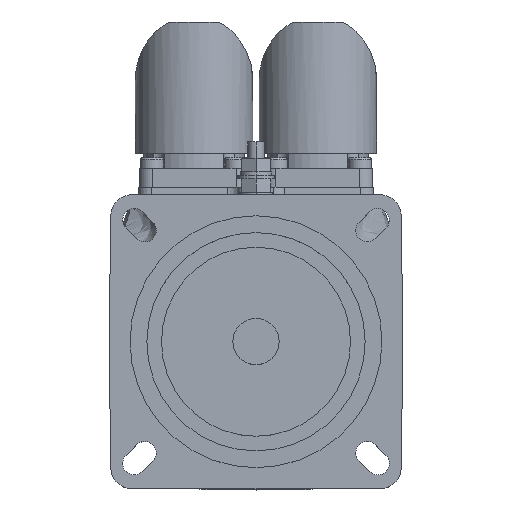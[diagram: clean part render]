
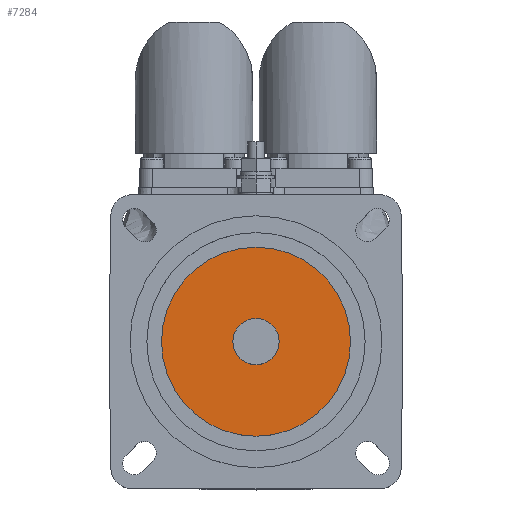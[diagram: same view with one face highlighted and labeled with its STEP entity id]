
A CAD part, top view. The second image highlights one B-rep face of the part: STEP entity #7284.
In plain terms, the highlighted planar face has unit normal (0, 0, 1).
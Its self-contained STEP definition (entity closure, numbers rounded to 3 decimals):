
#620 = CARTESIAN_POINT ( 'NONE',  ( 0., 0., 7.5 ) ) ;
#623 = CARTESIAN_POINT ( 'NONE',  ( 0., 0., 7.5 ) ) ;
#625 = DIRECTION ( 'NONE',  ( 0., 0., 1. ) ) ;
#626 = DIRECTION ( 'NONE',  ( 1., 0., 0. ) ) ;
#628 = DIRECTION ( 'NONE',  ( 0., 0., 1. ) ) ;
#629 = DIRECTION ( 'NONE',  ( 1., 0., 0. ) ) ;
#801 = EDGE_CURVE ( 'NONE', #17089, #17090, #15942, .T. ) ;
#806 = EDGE_CURVE ( 'NONE', #17104, #17103, #15949, .T. ) ;
#1053 = EDGE_CURVE ( 'NONE', #17090, #17089, #16287, .T. ) ;
#1054 = EDGE_CURVE ( 'NONE', #17103, #17104, #16289, .T. ) ;
#1387 = ORIENTED_EDGE ( 'NONE', *, *, #1054, .T. ) ;
#1730 = EDGE_LOOP ( 'NONE', ( #2721, #2722 ) ) ;
#1737 = EDGE_LOOP ( 'NONE', ( #2723, #1387 ) ) ;
#2721 = ORIENTED_EDGE ( 'NONE', *, *, #801, .F. ) ;
#2722 = ORIENTED_EDGE ( 'NONE', *, *, #1053, .F. ) ;
#2723 = ORIENTED_EDGE ( 'NONE', *, *, #806, .T. ) ;
#5022 = FACE_BOUND ( 'NONE', #1730, .T. ) ;
#5026 = FACE_OUTER_BOUND ( 'NONE', #1737, .T. ) ;
#6776 = CARTESIAN_POINT ( 'NONE',  ( 0., 22.5, 7.5 ) ) ;
#6777 = PLANE ( 'NONE',  #14058 ) ;
#6778 = DIRECTION ( 'NONE',  ( 0., 0., 1. ) ) ;
#6779 = DIRECTION ( 'NONE',  ( 1., 0., 0. ) ) ;
#7284 = ADVANCED_FACE ( 'NONE', ( #5022, #5026 ), #6777, .T. ) ;
#9385 = AXIS2_PLACEMENT_3D ( 'NONE', #13573, #13579, #13580 ) ;
#9389 = AXIS2_PLACEMENT_3D ( 'NONE', #13593, #13594, #13595 ) ;
#12276 = CARTESIAN_POINT ( 'NONE',  ( 5.5, 0., 7.5 ) ) ;
#12277 = CARTESIAN_POINT ( 'NONE',  ( -5.5, 0., 7.5 ) ) ;
#12290 = CARTESIAN_POINT ( 'NONE',  ( -22.5, 0., 7.5 ) ) ;
#12291 = CARTESIAN_POINT ( 'NONE',  ( 22.5, 0., 7.5 ) ) ;
#13573 = CARTESIAN_POINT ( 'NONE',  ( 0., 0., 7.5 ) ) ;
#13579 = DIRECTION ( 'NONE',  ( 0., 0., 1. ) ) ;
#13580 = DIRECTION ( 'NONE',  ( 1., 0., 0. ) ) ;
#13593 = CARTESIAN_POINT ( 'NONE',  ( 0., 0., 7.5 ) ) ;
#13594 = DIRECTION ( 'NONE',  ( 0., 0., 1. ) ) ;
#13595 = DIRECTION ( 'NONE',  ( 1., 0., 0. ) ) ;
#13774 = AXIS2_PLACEMENT_3D ( 'NONE', #623, #625, #626 ) ;
#13778 = AXIS2_PLACEMENT_3D ( 'NONE', #620, #628, #629 ) ;
#14058 = AXIS2_PLACEMENT_3D ( 'NONE', #6776, #6778, #6779 ) ;
#15942 = CIRCLE ( 'NONE', #9385, 5.5 ) ;
#15949 = CIRCLE ( 'NONE', #9389, 22.5 ) ;
#16287 = CIRCLE ( 'NONE', #13774, 5.5 ) ;
#16289 = CIRCLE ( 'NONE', #13778, 22.5 ) ;
#17089 = VERTEX_POINT ( 'NONE', #12276 ) ;
#17090 = VERTEX_POINT ( 'NONE', #12277 ) ;
#17103 = VERTEX_POINT ( 'NONE', #12290 ) ;
#17104 = VERTEX_POINT ( 'NONE', #12291 ) ;
